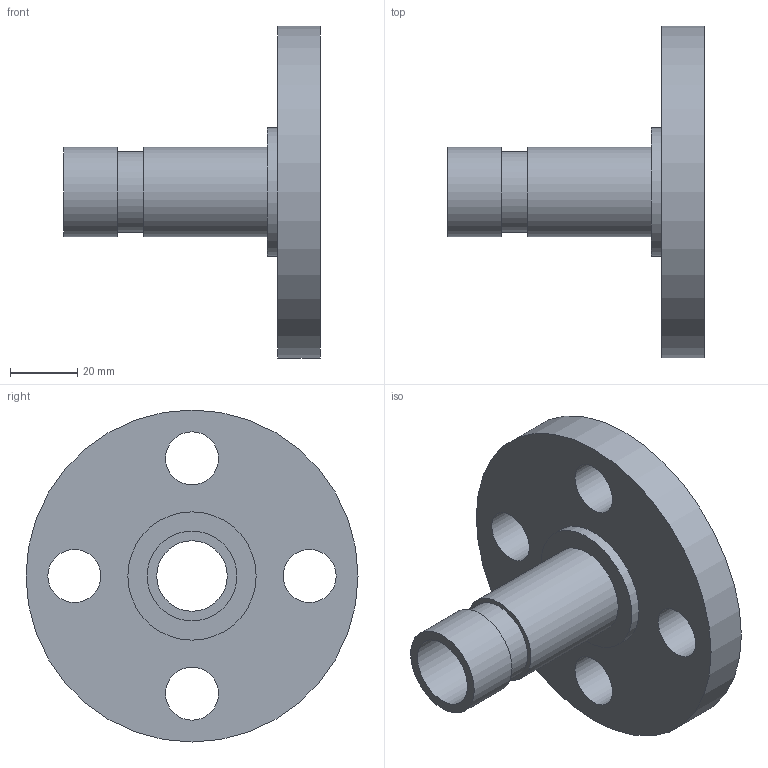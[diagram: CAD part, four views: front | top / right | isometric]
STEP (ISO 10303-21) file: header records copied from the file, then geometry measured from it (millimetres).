
FILE_DESCRIPTION(/* description */ ('VIC FLANGE ADAPTER No 45F','CAx-IF Rec.Pracs.---Representation and Presentation of Product Manufacturing Information (PMI)---4.0---2014-10-13'),/* implementation_level */ '2;1');
FILE_NAME(/* name */ 'C:\Users\kkamble\AppData\Roaming\Autodesk\ApplicationPlugins\Back Up\Victaulic_IPS_Flanged Adapter Nipple_CL 150 FF_No 45F (OGSxFLG)\Victaulic_IPS_Flanged Adapter Nipple_CL 150 FF_No 45F (OGSxFLG)_0.75 (20).stp',/* time_stamp */ '2020-07-26T22:22:37+06:00',/* author */ ('CONSTRUCTION PIPING SERVICES'),/* organization */ ('Victaulic'),/* preprocessor_version */ 'ST-DEVELOPER v17.2',/* originating_system */ 'Autodesk Inventor 2019',/* authorisation */ '');
FILE_SCHEMA (('AP242_MANAGED_MODEL_BASED_3D_ENGINEERING_MIM_LF { 1 0 10303 442 1 1 4 }'));
Length unit declared in the file: inch
Products named in the file (1): 045F-0.75
Bounding box: 76.2 x 98.55 x 98.55 mm (x, y, z)
Volume: 97116.3 mm3; surface area: 30050.2 mm2
Topology: 1 solids, 1 shells, 16 faces, 42 edges, 32 vertices
Faces by surface type: cylinder 10, plane 6
Full cylindrical faces by diameter (mm): 15.748 x4, 20.93 x1, 23.825 x1, 26.67 x2, 38.1 x1, 98.552 x1
Entity records: 622 total; most frequent: DIRECTION 108, CARTESIAN_POINT 91, ORIENTED_EDGE 84, AXIS2_PLACEMENT_3D 49, EDGE_CURVE 42, CIRCLE 32, VERTEX_POINT 32, EDGE_LOOP 30
